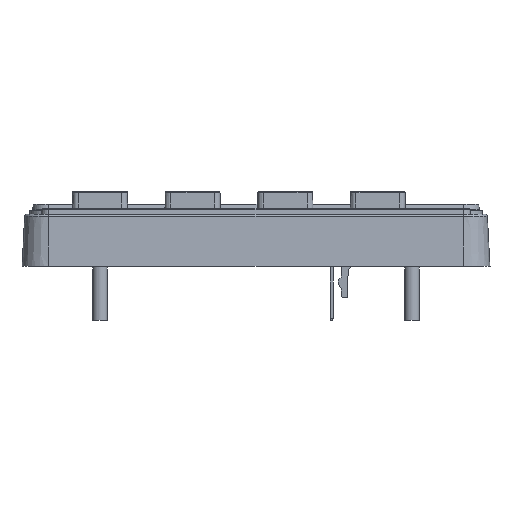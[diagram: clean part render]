
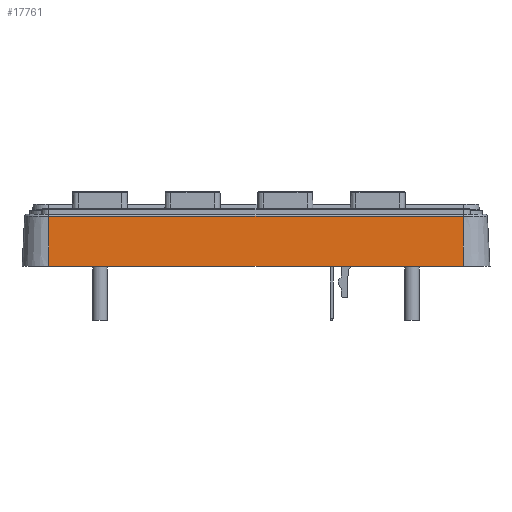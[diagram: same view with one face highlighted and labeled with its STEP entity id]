
A CAD part, left-side view. The second image highlights one B-rep face of the part: STEP entity #17761.
In plain terms, the highlighted planar face has unit normal (-0.999, 0, 0.052).
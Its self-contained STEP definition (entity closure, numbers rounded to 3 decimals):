
#2570 = CARTESIAN_POINT ( 'NONE',  ( -16., -42.5, 0. ) ) ;
#3690 = EDGE_CURVE ( 'NONE', #12781, #9085, #7742, .T. ) ;
#4421 = EDGE_CURVE ( 'NONE', #9085, #8937, #9772, .T. ) ;
#7205 = CARTESIAN_POINT ( 'NONE',  ( -16., 42.5, 0. ) ) ;
#7742 = LINE ( 'NONE', #15291, #12328 ) ;
#8140 = CARTESIAN_POINT ( 'NONE',  ( -16., 42.5, 0. ) ) ;
#8163 = LINE ( 'NONE', #8511, #12769 ) ;
#8362 = DIRECTION ( 'NONE',  ( 0., -1., 0. ) ) ;
#8511 = CARTESIAN_POINT ( 'NONE',  ( -15.464, 42.5, 10.226 ) ) ;
#8675 = CARTESIAN_POINT ( 'NONE',  ( -16., -42.5, 0. ) ) ;
#8905 = AXIS2_PLACEMENT_3D ( 'NONE', #8140, #21977, #10085 ) ;
#8937 = VERTEX_POINT ( 'NONE', #2570 ) ;
#8957 = EDGE_CURVE ( 'NONE', #20683, #8937, #24369, .T. ) ;
#9085 = VERTEX_POINT ( 'NONE', #7205 ) ;
#9772 = LINE ( 'NONE', #22204, #15036 ) ;
#10085 = DIRECTION ( 'NONE',  ( 0.052, 0., 0.999 ) ) ;
#11988 = PLANE ( 'NONE',  #8905 ) ;
#12328 = VECTOR ( 'NONE', #23624, 1000. ) ;
#12769 = VECTOR ( 'NONE', #24330, 1000. ) ;
#12781 = VERTEX_POINT ( 'NONE', #24017 ) ;
#14425 = VECTOR ( 'NONE', #22497, 1000. ) ;
#14689 = ORIENTED_EDGE ( 'NONE', *, *, #4421, .T. ) ;
#15036 = VECTOR ( 'NONE', #8362, 1000. ) ;
#15291 = CARTESIAN_POINT ( 'NONE',  ( -16., 42.5, 0. ) ) ;
#15443 = ORIENTED_EDGE ( 'NONE', *, *, #21122, .T. ) ;
#17444 = FACE_OUTER_BOUND ( 'NONE', #18583, .T. ) ;
#17761 = ADVANCED_FACE ( 'NONE', ( #17444 ), #11988, .T. ) ;
#18583 = EDGE_LOOP ( 'NONE', ( #21057, #15443, #19633, #14689 ) ) ;
#19633 = ORIENTED_EDGE ( 'NONE', *, *, #3690, .T. ) ;
#20683 = VERTEX_POINT ( 'NONE', #20808 ) ;
#20808 = CARTESIAN_POINT ( 'NONE',  ( -15.464, -42.5, 10.226 ) ) ;
#21057 = ORIENTED_EDGE ( 'NONE', *, *, #8957, .F. ) ;
#21122 = EDGE_CURVE ( 'NONE', #20683, #12781, #8163, .T. ) ;
#21977 = DIRECTION ( 'NONE',  ( -0.999, 0., 0.052 ) ) ;
#22204 = CARTESIAN_POINT ( 'NONE',  ( -16., 42.5, 0. ) ) ;
#22497 = DIRECTION ( 'NONE',  ( -0.052, 0., -0.999 ) ) ;
#23624 = DIRECTION ( 'NONE',  ( -0.052, 0., -0.999 ) ) ;
#24017 = CARTESIAN_POINT ( 'NONE',  ( -15.464, 42.5, 10.226 ) ) ;
#24330 = DIRECTION ( 'NONE',  ( 0., 1., 0. ) ) ;
#24369 = LINE ( 'NONE', #8675, #14425 ) ;
